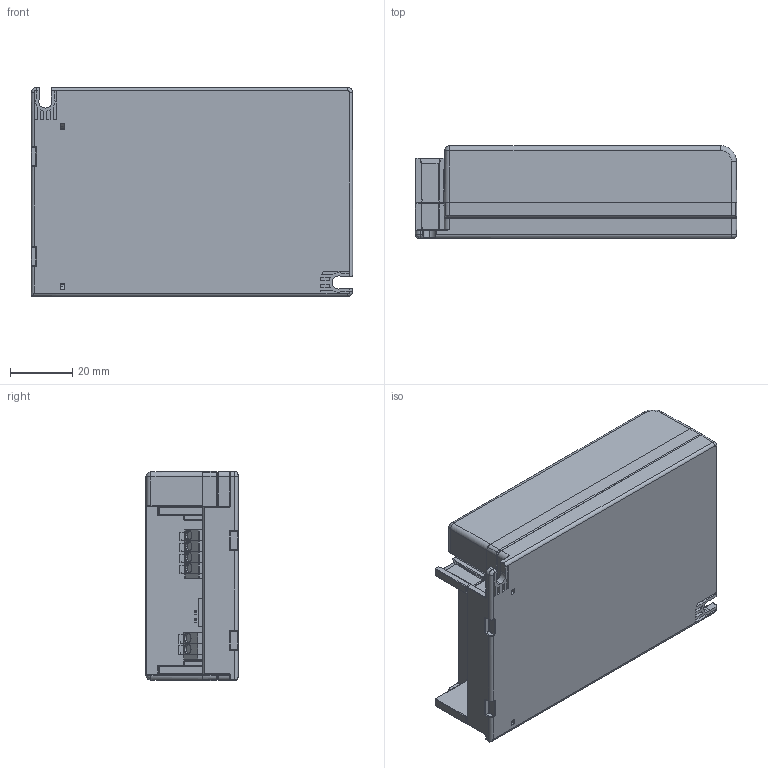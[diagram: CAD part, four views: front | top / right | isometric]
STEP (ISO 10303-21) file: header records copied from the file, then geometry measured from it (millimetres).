
FILE_DESCRIPTION (( 'STEP AP203' ), '1' );
FILE_NAME ('9C1-4537785-EN-00.STEP', '2024-10-24T07:17:08', ( '' ), ( '' ), 'SwSTEP 2.0', 'SolidWorks 2023', '' );
FILE_SCHEMA (( 'CONFIG_CONTROL_DESIGN' ));
Length unit declared in the file: millimetre
Products named in the file (1): 9C1-4537785-EN-00
Bounding box: 103 x 29.5 x 67 mm (x, y, z)
Volume: 173458.5 mm3; surface area: 50985 mm2
Topology: 9 solids, 10 shells, 1393 faces, 3522 edges, 2087 vertices
Faces by surface type: plane 616, cylinder 482, bspline 135, sphere 91, torus 35, cone 34
Entity records: 42697 total; most frequent: CARTESIAN_POINT 11369, ORIENTED_EDGE 6874, DIRECTION 6130, EDGE_CURVE 3437, VERTEX_POINT 2087, VECTOR 2064, LINE 2064, AXIS2_PLACEMENT_3D 2033
